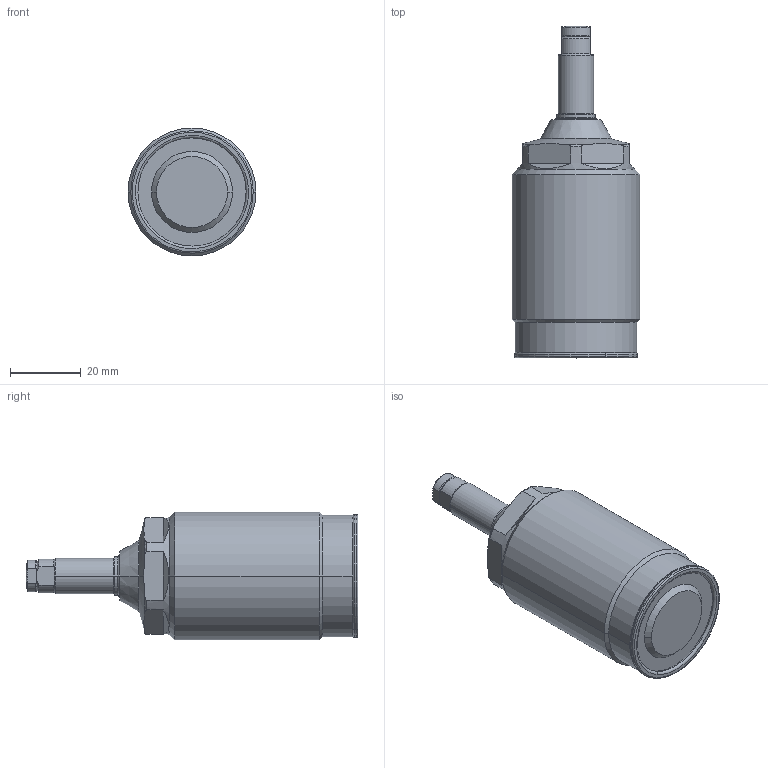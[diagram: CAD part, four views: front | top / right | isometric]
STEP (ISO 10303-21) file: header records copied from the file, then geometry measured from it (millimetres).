
FILE_DESCRIPTION(/* description */ (''),/* implementation_level */ '2;1');
FILE_NAME(/* name */ 'TNE36-Q.stp',/* time_stamp */ '2024-01-16T10:35:32+08:00',/* author */ (''),/* organization */ (''),/* preprocessor_version */ 'ST-DEVELOPER v16.7',/* originating_system */ 'SIEMENS PLM Software NX 12.0',/* authorisation */ '');
FILE_SCHEMA (('AP203_CONFIGURATION_CONTROLLED_3D_DESIGN_OF_MECHANICAL_PARTS_AND_ASSEMBLIES_MIM_LF { 1 0 10303 403 2 1 2}'));
Length unit declared in the file: millimetre
Products named in the file (6): TNE36-Q-5; TNE36-Q-4; TNE36-Q-3; TNE36-Q-2; TNE36-Q-1; WNC1603-Q_step
Assembly tree (5 placements, depth 2):
  WNC1603-Q_step
    TNE36-Q-1
    TNE36-Q-2
    TNE36-Q-3
    TNE36-Q-4
    TNE36-Q-5
Bounding box: 36 x 93.5 x 36 mm (x, y, z)
Volume: 60355.8 mm3; surface area: 11284.4 mm2
Topology: 5 solids, 5 shells, 138 faces, 308 edges, 187 vertices
Faces by surface type: cylinder 38, torus 38, plane 34, cone 26, sphere 2
Entity records: 4845 total; most frequent: CARTESIAN_POINT 1041, DIRECTION 726, ORIENTED_EDGE 616, AXIS2_PLACEMENT_3D 318, EDGE_CURVE 308, VERTEX_POINT 187, CIRCLE 174, EDGE_LOOP 151
